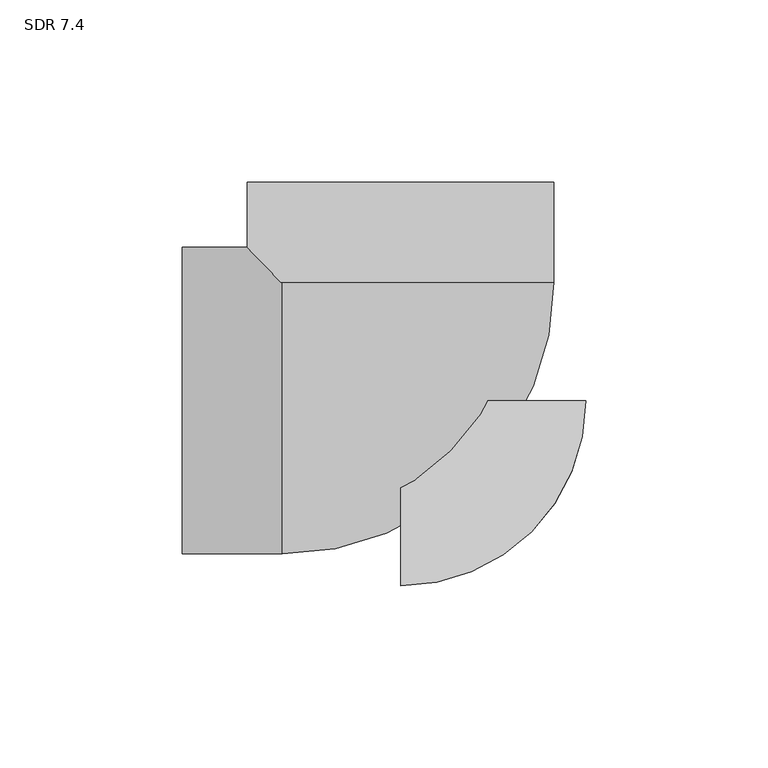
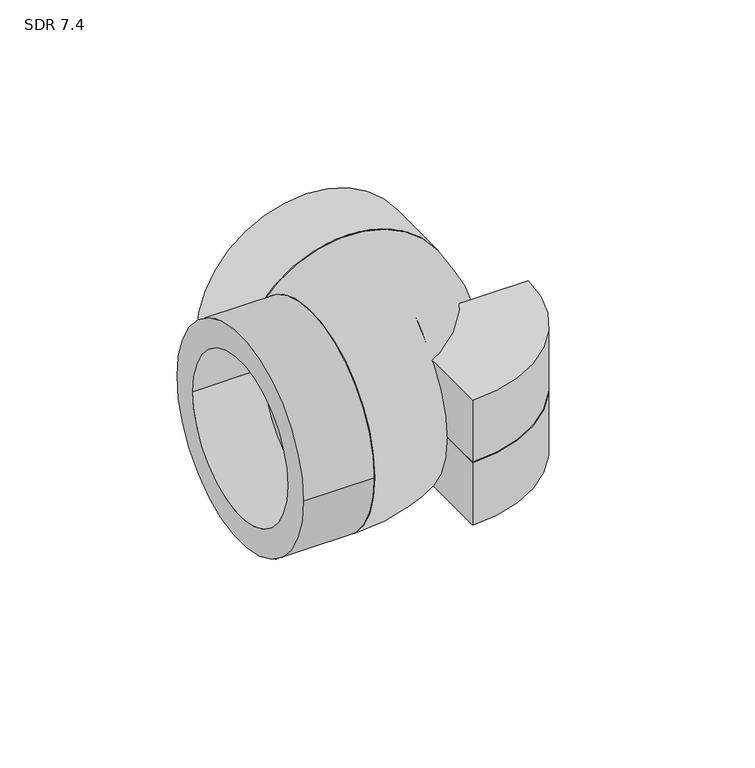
"""IFC4 building model written with IfcOpenShell, lengths in millimetres: pipe fitting geometry, Aquatherm - Elbow Socket : SDR 7.4."""

import ifcopenshell
import ifcopenshell.guid

model = None  # the IFC model being written
_history = None  # IfcOwnerHistory: only IFC2X3 demands one
_inside = {}  # id of a spatial element -> (the spatial element, [elements in it])
_under = {}  # id of a project, library or spatial element -> (it, [spatial elements below it])
_declared = {}  # id of a project -> (the project, [libraries it declares])
_typed = {}  # id of a type object -> (the type object, [elements of that type])
_made_of = {}  # id of a material, layer set ... -> (it, [elements and type objects made of it])


def new_model(schema):
    """Start an empty IFC model of exactly this schema.

    Asked for "IFC4X3", IfcOpenShell would pick the latest addendum, in which some entities
    have other attributes; the version numbers below select the first issue.
    IFC2X3 requires an IfcOwnerHistory on every rooted entity: one is made here for all.
    """
    global model, _history
    if schema == "IFC4X3":
        model = ifcopenshell.file(schema_version=(4, 3, 0, 0))
    else:
        model = ifcopenshell.file(schema=schema)
    _inside.clear()
    _under.clear()
    _declared.clear()
    _typed.clear()
    _made_of.clear()
    _history = None
    if model.schema == "IFC2X3":
        org = make("IfcOrganization", Name="unknown")
        user = make(
            "IfcPersonAndOrganization",
            ThePerson=make("IfcPerson", FamilyName="unknown"),
            TheOrganization=org,
        )
        app = make(
            "IfcApplication",
            ApplicationDeveloper=org,
            Version="unknown",
            ApplicationFullName="unknown",
            ApplicationIdentifier="unknown",
        )
        _history = make(
            "IfcOwnerHistory",
            OwningUser=user,
            OwningApplication=app,
            ChangeAction="ADDED",
            CreationDate=0,
        )
    return model


def make(cls, **values):
    """One entity of the class cls with the attributes given. An attribute that is None is left unset."""
    return model.create_entity(
        cls, **{name: value for name, value in values.items() if value is not None}
    )


def rooted(cls, **values):
    """An entity with a GlobalId (a new one), such as an element, a storey or a relation."""
    return make(cls, GlobalId=ifcopenshell.guid.new(), OwnerHistory=_history, **values)


def si_unit(unit_type, name, prefix=None):
    """IfcSIUnit, for example si_unit("LENGTHUNIT", "METRE", prefix="MILLI")."""
    return make("IfcSIUnit", UnitType=unit_type, Prefix=prefix, Name=name)


def assignment(units):
    """IfcUnitAssignment: the units of a project."""
    return None if units is None else make("IfcUnitAssignment", Units=units)


def point(xyz):
    """IfcCartesianPoint."""
    return None if xyz is None else make("IfcCartesianPoint", Coordinates=xyz)


def direction(xyz):
    """IfcDirection."""
    return None if xyz is None else make("IfcDirection", DirectionRatios=xyz)


def frame(location, z_axis=None, x_axis=None):
    """IfcAxis2Placement3D, a coordinate frame: its origin and axes. An axis left out is left unset."""
    return make(
        "IfcAxis2Placement3D",
        Location=point(location),
        Axis=direction(z_axis),
        RefDirection=direction(x_axis),
    )


def frame_2d(location, x_axis=None):
    """IfcAxis2Placement2D, a coordinate frame in the plane: its origin and x axis."""
    return make(
        "IfcAxis2Placement2D", Location=point(location), RefDirection=direction(x_axis)
    )


def origin():
    """The frame at (0, 0, 0) with its axes left unset."""
    return frame((0.0, 0.0, 0.0))


def origin_with_axes():
    """The frame at (0, 0, 0) with the z axis (0, 0, 1) and the x axis (1, 0, 0) written out."""
    return frame((0.0, 0.0, 0.0), z_axis=(0.0, 0.0, 1.0), x_axis=(1.0, 0.0, 0.0))


def origin_2d():
    """The frame at (0, 0) in the plane with its x axis left unset."""
    return frame_2d((0.0, 0.0))


def place(relative_to, where):
    """IfcLocalPlacement: puts the frame where relative to a parent placement (None: the world)."""
    return make(
        "IfcLocalPlacement", PlacementRelTo=relative_to, RelativePlacement=where
    )


def context(
    kind, dimensions, precision=None, world=None, true_north=None, identifier=None
):
    """IfcGeometricRepresentationContext, for example the 3D "Model" context."""
    return make(
        "IfcGeometricRepresentationContext",
        ContextIdentifier=identifier,
        ContextType=kind,
        CoordinateSpaceDimension=dimensions,
        Precision=precision,
        WorldCoordinateSystem=world,
        TrueNorth=true_north,
    )


def project(units=None, contexts=None):
    """IfcProject with its units and contexts."""
    return rooted(
        "IfcProject",
        Name="project",
        RepresentationContexts=contexts,
        UnitsInContext=assignment(units),
    )


def spatial(cls, under=None, at=None, **own):
    """A site, building, storey or space (cls), placed at a placement, below another one or the project."""
    s = rooted(cls, ObjectPlacement=at, **own)
    if under is not None:
        _under.setdefault(under.id(), (under, []))[1].append(s)
    return s


def polyline(points):
    """IfcPolyline through the points."""
    return make("IfcPolyline", Points=[point(p) for p in points])


def circle_curve(where, radius):
    """IfcCircle in the frame where."""
    return make("IfcCircle", Position=where, Radius=radius)


def ellipse_curve(where, semi_axis1, semi_axis2):
    """IfcEllipse in the frame where."""
    return make(
        "IfcEllipse", Position=where, SemiAxis1=semi_axis1, SemiAxis2=semi_axis2
    )


def trimmed(basis, trim1, trim2, sense, master):
    """IfcTrimmedCurve: the piece of a basis curve between two trims."""
    return make(
        "IfcTrimmedCurve",
        BasisCurve=basis,
        Trim1=trim1,
        Trim2=trim2,
        SenseAgreement=sense,
        MasterRepresentation=master,
    )


def segment(curve, same_sense, transition):
    """IfcCompositeCurveSegment."""
    return make(
        "IfcCompositeCurveSegment",
        Transition=transition,
        SameSense=same_sense,
        ParentCurve=curve,
    )


def composite_curve(segments, self_intersect=None):
    """IfcCompositeCurve: segments joined end to end."""
    return make("IfcCompositeCurve", Segments=segments, SelfIntersect=self_intersect)


def outline(outer, holes=None, kind="AREA"):
    """IfcArbitraryClosedProfileDef: a profile drawn as a closed curve; with holes, ...WithVoids."""
    if holes is None:
        return make("IfcArbitraryClosedProfileDef", ProfileType=kind, OuterCurve=outer)
    return make(
        "IfcArbitraryProfileDefWithVoids",
        ProfileType=kind,
        OuterCurve=outer,
        InnerCurves=holes,
    )


def extrude(swept, where, along, depth):
    """IfcExtrudedAreaSolid: the profile swept, set in the frame where, extruded along a direction by depth."""
    return make(
        "IfcExtrudedAreaSolid",
        SweptArea=swept,
        Position=where,
        ExtrudedDirection=direction(along),
        Depth=depth,
    )


def shape(context_of_items, identifier, shape_type, items):
    """IfcShapeRepresentation: the items that make up one representation, for example the "Body"."""
    return make(
        "IfcShapeRepresentation",
        ContextOfItems=context_of_items,
        RepresentationIdentifier=identifier,
        RepresentationType=shape_type,
        Items=items,
    )


def source(mapping_origin, context_of_items, identifier, shape_type, items):
    """IfcRepresentationMap: a shape defined once, which mapped items show again and again."""
    return make(
        "IfcRepresentationMap",
        MappingOrigin=mapping_origin,
        MappedRepresentation=shape(context_of_items, identifier, shape_type, items),
    )


def transform(
    local_origin,
    x_axis=None,
    y_axis=None,
    z_axis=None,
    scale=None,
    scale2=None,
    scale3=None,
    uniform=True,
):
    """IfcCartesianTransformationOperator3D, or its non-uniform kind. x_axis, y_axis, z_axis: its Axis1, 2, 3."""
    if uniform:
        return make(
            "IfcCartesianTransformationOperator3D",
            Axis1=direction(x_axis),
            Axis2=direction(y_axis),
            LocalOrigin=point(local_origin),
            Scale=scale,
            Axis3=direction(z_axis),
        )
    return make(
        "IfcCartesianTransformationOperator3DnonUniform",
        Axis1=direction(x_axis),
        Axis2=direction(y_axis),
        LocalOrigin=point(local_origin),
        Scale=scale,
        Axis3=direction(z_axis),
        Scale2=scale2,
        Scale3=scale3,
    )


def mapped(mapping_source, mapping_target):
    """IfcMappedItem: shows the shape of a source again, moved by a transform."""
    return make(
        "IfcMappedItem", MappingSource=mapping_source, MappingTarget=mapping_target
    )


def made_of(thing, what):
    """Note that an element or type object is made of a material, layer set ...; save() writes the relation."""
    if what is not None:
        _made_of.setdefault(what.id(), (what, []))[1].append(thing)
    return thing


def element(
    cls,
    number,
    at=None,
    inside=None,
    cuts=None,
    type_object=None,
    material=None,
    context=None,
    identifier="Body",
    shape_type=None,
    held_by="IfcProductDefinitionShape",
    body=None,
    shapes=None,
    **own,
):
    """One element of the class cls, such as IfcWall. Its Tag is "e" and its number.

    at: its placement. inside: the storey or other place that contains it. cuts: it is an
    opening in that element (IfcRelVoidsElement). A single representation is given by context,
    identifier, shape_type and body (its items); several are given by shapes. held_by: the class
    of the entity that holds the representations. save() writes the other relations.
    """
    e = rooted(cls, Tag="e%d" % number, ObjectPlacement=at, **own)
    if body is not None:
        shapes = [shape(context, identifier, shape_type, body)]
    if shapes is not None:
        e.Representation = make(held_by, Representations=shapes)
    if inside is not None:
        _inside.setdefault(inside.id(), (inside, []))[1].append(e)
    if cuts is not None:
        rooted(
            "IfcRelVoidsElement", RelatingBuildingElement=cuts, RelatedOpeningElement=e
        )
    if type_object is not None:
        _typed.setdefault(type_object.id(), (type_object, []))[1].append(e)
    return made_of(e, material)


def aggregate(whole, parts):
    """IfcRelAggregates: a whole, such as a stair, and the parts it consists of."""
    return rooted("IfcRelAggregates", RelatingObject=whole, RelatedObjects=parts)


def save(model, path):
    """Write the relations noted so far, then the file.

    IfcRelAggregates (storeys below a building ...), IfcRelContainedInSpatialStructure (elements
    in a storey), IfcRelDefinesByType, IfcRelAssociatesMaterial and IfcRelDeclares: one each for
    every whole, place, type object, material and project.
    """
    for whole, parts in _under.values():
        aggregate(whole, parts)
    for where, things in _inside.values():
        rooted(
            "IfcRelContainedInSpatialStructure",
            RelatedElements=things,
            RelatingStructure=where,
        )
    for kind, things in _typed.values():
        rooted("IfcRelDefinesByType", RelatedObjects=things, RelatingType=kind)
    for what, things in _made_of.values():
        rooted("IfcRelAssociatesMaterial", RelatedObjects=things, RelatingMaterial=what)
    for by, libraries in _declared.values():
        rooted("IfcRelDeclares", RelatingContext=by, RelatedDefinitions=libraries)
    model.write(path)


def plane_surface(at):
    """IfcPlane: the flat surface through the origin of the frame at, square to its z axis."""
    return make("IfcPlane", Position=at)


def revolved_surface(curve, axis_point, axis_direction):
    """IfcSurfaceOfRevolution: the curve turned about the line through axis_point along axis_direction."""
    return make(
        "IfcSurfaceOfRevolution",
        SweptCurve=make("IfcArbitraryOpenProfileDef", ProfileType="CURVE", Curve=curve),
        AxisPosition=make("IfcAxis1Placement", Location=point(axis_point), Axis=direction(axis_direction)),
    )


def advanced_brep(points, edges, surfaces, faces):
    """IfcAdvancedBrep: a solid bounded by faces that lie on surfaces and meet in shared edges.

    An edge is (start, end): straight between two places in points (the first is 0);
    or (start, end, curve); or (start, end, curve, False) where it runs against its curve.
    A face is (place in surfaces, loops), or (place, loops, False) where it looks against
    its surface's normal. A loop lists edges by number (the first is 1), with a minus sign
    where the edge is run from its end to its start. The first loop is the outer one.
    """
    corners = [point(p) for p in points]
    vertices = [make("IfcVertexPoint", VertexGeometry=c) for c in corners]
    made = []
    for start, end, *more in edges:
        made.append(
            make(
                "IfcEdgeCurve",
                EdgeStart=vertices[start],
                EdgeEnd=vertices[end],
                EdgeGeometry=more[0] if more else make("IfcPolyline", Points=[corners[start], corners[end]]),
                SameSense=more[1] if len(more) > 1 else True,
            )
        )
    hull = []
    for where, loops, *sense in faces:
        bounds = []
        for j, loop in enumerate(loops):
            ring = [make("IfcOrientedEdge", EdgeElement=made[abs(k) - 1], Orientation=k > 0) for k in loop]
            bounds.append(
                make(
                    "IfcFaceOuterBound" if j == 0 else "IfcFaceBound",
                    Bound=make("IfcEdgeLoop", EdgeList=ring),
                    Orientation=True,
                )
            )
        hull.append(make("IfcAdvancedFace", Bounds=bounds, FaceSurface=surfaces[where], SameSense=sense[0] if sense else True))
    return make("IfcAdvancedBrep", Outer=make("IfcClosedShell", CfsFaces=hull))


def sdr_7_4_76ecdf2c(model_context):
    return source(origin(), model_context, "Body", "SolidModel", [
        extrude(outline(composite_curve([segment(polyline([(0.0, -50.8), (0.0, 0.0), (50.8, 0.0)]), True, "CONTINUOUS"), segment(trimmed(circle_curve(origin_2d(), 50.8), [point((50.8, 0.0))], [point((0.0, -50.8))], False, "CARTESIAN"), True, "CONTINUOUS")], self_intersect=False)), frame((0.0, 0.0, -25.4), z_axis=(0.0, 0.0, 1.0), x_axis=(1.0, 0.0, 0.0)), (0.0, 0.0, 1.0), 25.4),
        extrude(outline(composite_curve([segment(trimmed(circle_curve(origin_2d(), 50.8), [point((50.8, 0.0))], [point((0.0, -50.8))], False, "CARTESIAN"), True, "CONTINUOUS"), segment(polyline([(0.0, -50.8), (0.0, 0.0), (50.8, 0.0)]), True, "CONTINUOUS")], self_intersect=False)), origin_with_axes(), (0.0, 0.0, 1.0), 25.4),
        extrude(outline(composite_curve([segment(trimmed(circle_curve(origin_2d(), 42.037), [point((0.0, 42.037))], [point((0.0, -42.037))], False, "CARTESIAN"), True, "CONTINUOUS"), segment(trimmed(circle_curve(origin_2d(), 42.037), [point((0.0, -42.037))], [point((0.0, 42.037))], False, "CARTESIAN"), True, "CONTINUOUS")], self_intersect=False), holes=[composite_curve([segment(trimmed(circle_curve(origin_2d(), 31.496), [point((0.0, 31.496))], [point((0.0, -31.496))], True, "CARTESIAN"), True, "CONTINUOUS"), segment(trimmed(circle_curve(origin_2d(), 31.496), [point((0.0, -31.496))], [point((0.0, 31.496))], True, "CARTESIAN"), True, "CONTINUOUS")], self_intersect=False)]), frame((0.0, 32.512, 0.0), z_axis=(0.0, 1.0, 0.0), x_axis=(0.0, 0.0, 1.0)), (0.0, 0.0, 1.0), 27.432),
        advanced_brep(
        [(-32.512, 32.512, -26.6473118), (-32.512, 32.512, 26.6473118), (-32.512, -22.7471111, 0.0), (-32.512, 22.7471111, 0.0), (22.7471111, 32.512, 0.0), (-22.7471111, 32.512, 0.0)],
        [
            (0, 1, circle_curve(frame((-32.512, 0.0, 0.0), z_axis=(-1.0, 0.0, 0.0), x_axis=(0.0, 1.0, 0.0)), 42.037)),
            (1, 0),
            (2, 3, circle_curve(frame((-32.512, 0.0, 0.0), z_axis=(1.0, 0.0, 0.0), x_axis=(0.0, 1.0, 0.0)), 22.7471111)),
            (3, 2, circle_curve(frame((-32.512, 0.0, 0.0), z_axis=(1.0, 0.0, 0.0), x_axis=(0.0, 1.0, 0.0)), 22.7471111)),
            (1, 0, circle_curve(frame((0.0, 32.512, 0.0), z_axis=(0.0, 1.0, 0.0), x_axis=(-1.0, 0.0, 0.0)), 42.037)),
            (4, 5, circle_curve(frame((0.0, 32.512, 0.0), z_axis=(0.0, -1.0, 0.0), x_axis=(-1.0, 0.0, 0.0)), 22.7471111)),
            (5, 4, circle_curve(frame((0.0, 32.512, 0.0), z_axis=(0.0, -1.0, 0.0), x_axis=(-1.0, 0.0, 0.0)), 22.7471111)),
            (5, 3, circle_curve(frame((-32.512, 32.512, 0.0), z_axis=(0.0, 0.0, -1.0), x_axis=(0.0, -1.0, 0.0)), 9.7648889)),
            (2, 4, circle_curve(frame((-32.512, 32.512, 0.0), z_axis=(0.0, 0.0, 1.0), x_axis=(0.0, -1.0, 0.0)), 55.2591111)),
        ],
        [
            plane_surface(frame((-32.512, 32.512, 83.7973118), z_axis=(-1.0, 0.0, 0.0), x_axis=(0.0, -1.0, 0.0))),
            plane_surface(frame((-32.512, 32.512, 83.7973118), z_axis=(0.0, 1.0, 0.0), x_axis=(1.0, 0.0, 0.0))),
            revolved_surface(trimmed(ellipse_curve(frame((-32.512, 0.0, 0.0), z_axis=(1.0, 0.0, 0.0), x_axis=(0.0, 1.0, 0.0)), 42.037, 42.037), [point((-32.512, 32.512, 26.6473118))], [point((-32.512, 32.512, -26.6473118))], True, "CARTESIAN"), (-32.512, 32.512, 83.7973118), (0.0, 0.0, -1.0)),
            revolved_surface(trimmed(ellipse_curve(frame((-32.512, 0.0, 0.0), z_axis=(-1.0, 0.0, 0.0), x_axis=(0.0, 1.0, 0.0)), 22.7471111, 22.7471111), [point((-32.512, 22.7471111, 0.0))], [point((-32.512, -22.7471111, 0.0))], True, "CARTESIAN"), (-32.512, 32.512, 83.7973118), (0.0, 0.0, -1.0)),
            revolved_surface(trimmed(ellipse_curve(frame((-32.512, 0.0, 0.0), z_axis=(-1.0, 0.0, 0.0), x_axis=(0.0, 1.0, 0.0)), 22.7471111, 22.7471111), [point((-32.512, -22.7471111, 0.0))], [point((-32.512, 22.7471111, 0.0))], True, "CARTESIAN"), (-32.512, 32.512, 83.7973118), (0.0, 0.0, -1.0)),
        ],
        [
            (0, [[1, 2], [3, 4]]),
            (1, [[5, -2], [6, 7]]),
            (2, [[-1, -5]]),
            (3, [[8, -3, 9, -7]]),
            (4, [[-9, -4, -8, -6]]),
        ],
    ),
        extrude(outline(composite_curve([segment(trimmed(circle_curve(origin_2d(), 42.037), [point((42.037, 0.0))], [point((-42.037, 0.0))], False, "CARTESIAN"), True, "CONTINUOUS"), segment(trimmed(circle_curve(origin_2d(), 42.037), [point((-42.037, 0.0))], [point((42.037, 0.0))], False, "CARTESIAN"), True, "CONTINUOUS")], self_intersect=False), holes=[composite_curve([segment(trimmed(circle_curve(origin_2d(), 31.496), [point((31.496, 0.0))], [point((-31.496, 0.0))], True, "CARTESIAN"), True, "CONTINUOUS"), segment(trimmed(circle_curve(origin_2d(), 31.496), [point((-31.496, 0.0))], [point((31.496, 0.0))], True, "CARTESIAN"), True, "CONTINUOUS")], self_intersect=False)]), frame((-59.944, 0.0, 0.0), z_axis=(1.0, 0.0, 0.0), x_axis=(0.0, 1.0, 0.0)), (0.0, 0.0, 1.0), 27.432),
    ])


if __name__ == "__main__":
    model = new_model("IFC4")
    model_context = context("Model", 3, world=origin())
    ifc_project = project(units=[si_unit("LENGTHUNIT", "METRE", prefix="MILLI")], contexts=[model_context])
    site = spatial("IfcSite", under=ifc_project)
    building = spatial("IfcBuilding", under=site)
    placement = place(None, origin())
    sdr_7_4_shape = sdr_7_4_76ecdf2c(model_context)
    element("IfcPipeFitting", 1, ObjectType="Aquatherm - Elbow Socket : SDR 7.4", at=placement, inside=building, context=model_context, shape_type="MappedRepresentation", body=[
        mapped(sdr_7_4_shape, transform((0.0, 0.0, 0.0), x_axis=(1.0, 0.0, 0.0), y_axis=(0.0, 1.0, 0.0), z_axis=(0.0, 0.0, 1.0))),
    ])
    save(model, "model.ifc")
